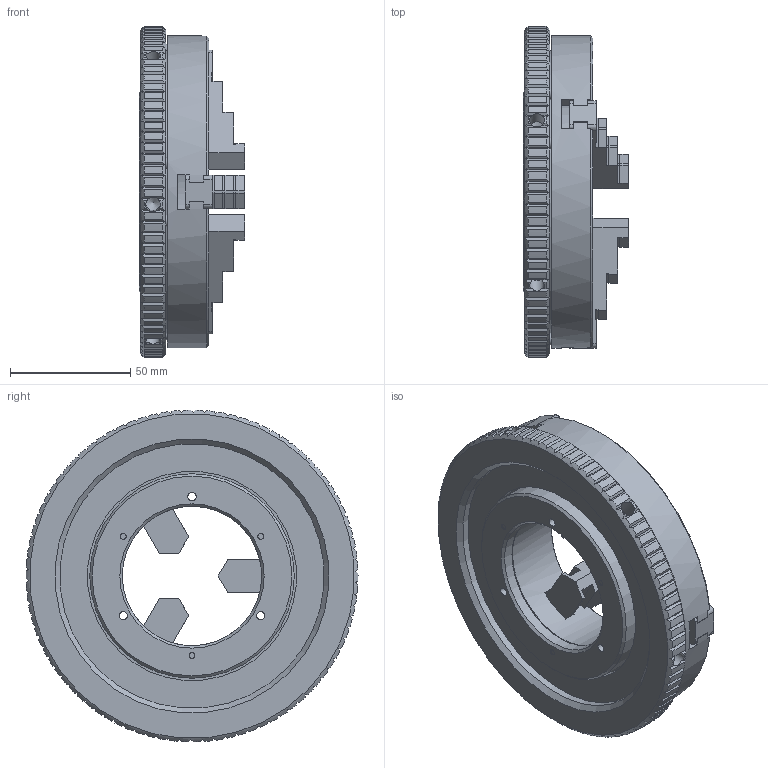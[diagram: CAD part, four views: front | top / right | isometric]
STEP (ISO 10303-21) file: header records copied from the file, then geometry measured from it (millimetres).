
FILE_DESCRIPTION(/* description */ ('Futterkörper'),/* implementation_level */ '2;1');
FILE_NAME(/* name */ 'D:\03 Projekte\Futtervariationen\(2) Dateien für Webseite\DBF140x58\DBF140x58_00-00 Dreibackenfutter DBF140x58.iam.stp',/* time_stamp */ '2022-01-27T15:16:09+01:00',/* author */ ('D. Pustolla'),/* organization */ (''),/* preprocessor_version */ 'ST-DEVELOPER v15.2',/* originating_system */ 'Autodesk Inventor 2014',/* authorisation */ '');
FILE_SCHEMA (('AUTOMOTIVE_DESIGN { 1 0 10303 214 3 1 1 }'));
Length unit declared in the file: millimetre
Products named in the file (8): DBF140x58_00-10 Futterkörper; DBF140x58_00-12 Spannring; DBF140x58_00-13 Distanzring; DBF140x58_00-15 Spannbacken 1; DBF140x58_00-16 Spannbacken 2; DBF140x58_00-17 Spannbacken 3; DIN 912 - M3 x 0,5 x 25 x 18; DBF140x58_00-00 Dreibackenfutter DBF140x58
Bounding box: 43.7 x 138 x 138 mm (x, y, z)
Volume: 286337.3 mm3; surface area: 98213.9 mm2
Topology: 9 solids, 15 shells, 691 faces, 1931 edges, 1272 vertices
Faces by surface type: plane 473, cylinder 170, cone 42, torus 6
Full cylindrical faces by diameter (mm): 2.459 x3, 2.9 x6, 3 x9, 3.4 x9, 5 x6, 5.5 x3, 6.1 x6, 6.5 x6, 58 x2, 71 x1, 73.8 x1, 74 x3, 85 x1, 87 x1, 110 x1, 118 x1, 119 x1, 130 x1
Entity records: 21080 total; most frequent: CARTESIAN_POINT 4466, ORIENTED_EDGE 3456, DIRECTION 3115, EDGE_CURVE 1728, VERTEX_POINT 1185, AXIS2_PLACEMENT_3D 1112, LINE 891, VECTOR 891
